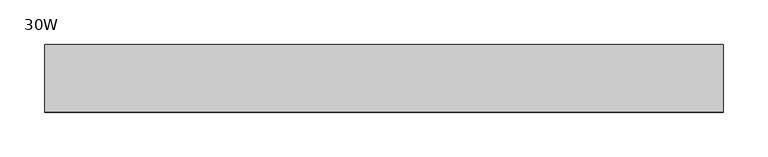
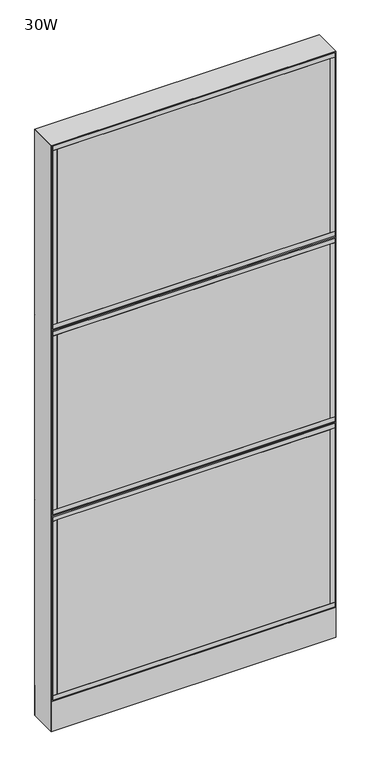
"""IFC4 building model written with IfcOpenShell, lengths in millimetres: furniture geometry, Steelcase - Montage - Frame - 65H - Enhanced Monolithic - Base Cavity : 30W."""

from ifc_helpers import new_model, si_unit, point, frame, frame_2d, origin, origin_with_axes, place, context, project, spatial, polyline, circle_curve, trimmed, segment, composite_curve, outline, extrude, faceted_brep, source, transform, mapped, element, save


def furniture_30w_125e9852(model_context):
    return source(origin(), model_context, "Body", "SolidModel", [
        extrude(outline(polyline([(746.125, 38.1000015), (746.125, 31.7500017), (15.875, 31.7500017), (15.875, 38.1000015), (746.125, 38.1000015)])), frame((0.0, 0.0, 104.775), z_axis=(0.0, 0.0, 1.0), x_axis=(1.0, 0.0, 0.0)), (0.0, 0.0, 1.0), 492.125),
        extrude(outline(polyline([(746.125, -31.7499985), (746.125, -38.1000015), (15.875, -38.1000015), (15.875, -31.7499985), (746.125, -31.7499985)])), frame((0.0, 0.0, 104.775), z_axis=(0.0, 0.0, 1.0), x_axis=(1.0, 0.0, 0.0)), (0.0, 0.0, 1.0), 492.125),
        extrude(outline(polyline([(758.825, -38.1000015), (746.125, -38.1000015), (746.125, 38.1000015), (758.825, 38.1000015), (758.825, -38.1000015)])), frame((0.0, 0.0, 104.775), z_axis=(0.0, 0.0, 1.0), x_axis=(1.0, 0.0, 0.0)), (0.0, 0.0, 1.0), 492.125),
        extrude(outline(polyline([(15.875, -38.1000015), (3.175, -38.1000015), (3.175, 38.1000015), (15.875, 38.1000015), (15.875, -38.1000015)])), frame((0.0, 0.0, 104.775), z_axis=(0.0, 0.0, 1.0), x_axis=(1.0, 0.0, 0.0)), (0.0, 0.0, 1.0), 492.125),
        extrude(outline(polyline([(758.825, -38.1000015), (3.175, -38.1000015), (3.175, 38.1000015), (758.825, 38.1000015), (758.825, -38.1000015)])), frame((0.0, 0.0, 596.9), z_axis=(0.0, 0.0, 1.0), x_axis=(1.0, 0.0, 0.0)), (0.0, 0.0, 1.0), 12.7),
        extrude(outline(polyline([(758.825, -38.1000015), (3.175, -38.1000015), (3.175, 38.1000015), (758.825, 38.1000015), (758.825, -38.1000015)])), frame((0.0, 0.0, 92.075), z_axis=(0.0, 0.0, 1.0), x_axis=(1.0, 0.0, 0.0)), (0.0, 0.0, 1.0), 12.7),
        extrude(outline(polyline([(746.125, 38.1000015), (746.125, 31.7500017), (15.875, 31.7500017), (15.875, 38.1000015), (746.125, 38.1000015)])), frame((0.0, 0.0, 628.65), z_axis=(0.0, 0.0, 1.0), x_axis=(1.0, 0.0, 0.0)), (0.0, 0.0, 1.0), 492.125),
        extrude(outline(polyline([(746.125, -31.7499985), (746.125, -38.1000015), (15.875, -38.1000015), (15.875, -31.7499985), (746.125, -31.7499985)])), frame((0.0, 0.0, 628.65), z_axis=(0.0, 0.0, 1.0), x_axis=(1.0, 0.0, 0.0)), (0.0, 0.0, 1.0), 492.125),
        extrude(outline(polyline([(758.825, -38.1000015), (746.125, -38.1000015), (746.125, 38.1000015), (758.825, 38.1000015), (758.825, -38.1000015)])), frame((0.0, 0.0, 628.65), z_axis=(0.0, 0.0, 1.0), x_axis=(1.0, 0.0, 0.0)), (0.0, 0.0, 1.0), 492.125),
        extrude(outline(polyline([(15.875, -38.1000015), (3.175, -38.1000015), (3.175, 38.1000015), (15.875, 38.1000015), (15.875, -38.1000015)])), frame((0.0, 0.0, 628.65), z_axis=(0.0, 0.0, 1.0), x_axis=(1.0, 0.0, 0.0)), (0.0, 0.0, 1.0), 492.125),
        extrude(outline(polyline([(758.825, -38.1000015), (3.175, -38.1000015), (3.175, 38.1000015), (758.825, 38.1000015), (758.825, -38.1000015)])), frame((0.0, 0.0, 615.95), z_axis=(0.0, 0.0, 1.0), x_axis=(1.0, 0.0, 0.0)), (0.0, 0.0, 1.0), 12.7),
        extrude(outline(polyline([(758.825, -38.1000015), (3.175, -38.1000015), (3.175, 38.1000015), (758.825, 38.1000015), (758.825, -38.1000015)])), frame((0.0, 0.0, 1120.775), z_axis=(0.0, 0.0, 1.0), x_axis=(1.0, 0.0, 0.0)), (0.0, 0.0, 1.0), 12.7),
        extrude(outline(polyline([(746.125, 38.1000015), (746.125, 31.7500017), (15.875, 31.7500017), (15.875, 38.1000015), (746.125, 38.1000015)])), frame((0.0, 0.0, 1152.525), z_axis=(0.0, 0.0, 1.0), x_axis=(1.0, 0.0, 0.0)), (0.0, 0.0, 1.0), 492.125),
        extrude(outline(polyline([(746.125, -31.7499985), (746.125, -38.1000015), (15.875, -38.1000015), (15.875, -31.7499985), (746.125, -31.7499985)])), frame((0.0, 0.0, 1152.525), z_axis=(0.0, 0.0, 1.0), x_axis=(1.0, 0.0, 0.0)), (0.0, 0.0, 1.0), 492.125),
        extrude(outline(polyline([(758.825, -38.1000015), (746.125, -38.1000015), (746.125, 38.1000015), (758.825, 38.1000015), (758.825, -38.1000015)])), frame((0.0, 0.0, 1152.525), z_axis=(0.0, 0.0, 1.0), x_axis=(1.0, 0.0, 0.0)), (0.0, 0.0, 1.0), 492.125),
        extrude(outline(polyline([(15.875, -38.1000015), (3.175, -38.1000015), (3.175, 38.1000015), (15.875, 38.1000015), (15.875, -38.1000015)])), frame((0.0, 0.0, 1152.525), z_axis=(0.0, 0.0, 1.0), x_axis=(1.0, 0.0, 0.0)), (0.0, 0.0, 1.0), 492.125),
        extrude(outline(polyline([(758.825, -38.1000015), (3.175, -38.1000015), (3.175, 38.1000015), (758.825, 38.1000015), (758.825, -38.1000015)])), frame((0.0, 0.0, 1139.825), z_axis=(0.0, 0.0, 1.0), x_axis=(1.0, 0.0, 0.0)), (0.0, 0.0, 1.0), 12.7),
        extrude(outline(polyline([(758.825, -38.1000015), (3.175, -38.1000015), (3.175, 38.1000015), (758.825, 38.1000015), (758.825, -38.1000015)])), frame((0.0, 0.0, 1644.65), z_axis=(0.0, 0.0, 1.0), x_axis=(1.0, 0.0, 0.0)), (0.0, 0.0, 1.0), 12.7),
        faceted_brep([(6.3499917, 31.7526299, 1142.9999997), (6.3499917, 31.7526299, 1130.3000003), (755.6500047, 31.7526299, 1130.3000003), (755.6500047, 31.7526299, 1142.9999997), (-5.4e-06, 38.102627, 1136.6499973), (762.0, 38.1026253, 1136.6500044)], [[[0, 1, 2, 3]], [[4, 1, 0]], [[4, 0, 3, 5]], [[5, 2, 1, 4]], [[3, 2, 5]]]),
        faceted_brep([(-5.4e-06, 38.102627, 612.7750027), (6.3499917, 31.7526299, 619.1249997), (755.6500047, 31.7526299, 619.1249997), (762.0, 38.1026253, 612.7750044), (755.6500047, 31.7526299, 606.4250003), (6.3499917, 31.7526299, 606.4250003)], [[[0, 1, 2, 3]], [[3, 4, 5, 0]], [[1, 5, 4, 2]], [[0, 5, 1]], [[2, 4, 3]]]),
        extrude(outline(polyline([(746.125, -38.1000015), (15.875, -38.1000015), (15.875, -31.7500017), (746.125, -31.7500017), (746.125, -38.1000015)])), frame((0.0, 0.0, 104.775), z_axis=(0.0, 0.0, 1.0), x_axis=(1.0, 0.0, 0.0)), (0.0, 0.0, 1.0), 492.125),
        extrude(outline(polyline([(746.125, 31.7499985), (15.875, 31.7499985), (15.875, 38.1000015), (746.125, 38.1000015), (746.125, 31.7499985)])), frame((0.0, 0.0, 104.775), z_axis=(0.0, 0.0, 1.0), x_axis=(1.0, 0.0, 0.0)), (0.0, 0.0, 1.0), 492.125),
        extrude(outline(polyline([(758.825, 38.1000015), (758.825, -38.1000015), (746.125, -38.1000015), (746.125, 38.1000015), (758.825, 38.1000015)])), frame((0.0, 0.0, 104.775), z_axis=(0.0, 0.0, 1.0), x_axis=(1.0, 0.0, 0.0)), (0.0, 0.0, 1.0), 492.125),
        extrude(outline(polyline([(15.875, 38.1000015), (15.875, -38.1000015), (3.175, -38.1000015), (3.175, 38.1000015), (15.875, 38.1000015)])), frame((0.0, 0.0, 104.775), z_axis=(0.0, 0.0, 1.0), x_axis=(1.0, 0.0, 0.0)), (0.0, 0.0, 1.0), 492.125),
        extrude(outline(polyline([(758.825, 38.1000015), (758.825, -38.1000015), (3.175, -38.1000015), (3.175, 38.1000015), (758.825, 38.1000015)])), frame((0.0, 0.0, 596.9), z_axis=(0.0, 0.0, 1.0), x_axis=(1.0, 0.0, 0.0)), (0.0, 0.0, 1.0), 12.7),
        extrude(outline(polyline([(758.825, 38.1000015), (758.825, -38.1000015), (3.175, -38.1000015), (3.175, 38.1000015), (758.825, 38.1000015)])), frame((0.0, 0.0, 92.075), z_axis=(0.0, 0.0, 1.0), x_axis=(1.0, 0.0, 0.0)), (0.0, 0.0, 1.0), 12.7),
        extrude(outline(polyline([(746.125, -38.1000015), (15.875, -38.1000015), (15.875, -31.7500017), (746.125, -31.7500017), (746.125, -38.1000015)])), frame((0.0, 0.0, 628.65), z_axis=(0.0, 0.0, 1.0), x_axis=(1.0, 0.0, 0.0)), (0.0, 0.0, 1.0), 492.125),
        extrude(outline(polyline([(746.125, 31.7499985), (15.875, 31.7499985), (15.875, 38.1000015), (746.125, 38.1000015), (746.125, 31.7499985)])), frame((0.0, 0.0, 628.65), z_axis=(0.0, 0.0, 1.0), x_axis=(1.0, 0.0, 0.0)), (0.0, 0.0, 1.0), 492.125),
        extrude(outline(polyline([(758.825, 38.1000015), (758.825, -38.1000015), (746.125, -38.1000015), (746.125, 38.1000015), (758.825, 38.1000015)])), frame((0.0, 0.0, 628.65), z_axis=(0.0, 0.0, 1.0), x_axis=(1.0, 0.0, 0.0)), (0.0, 0.0, 1.0), 492.125),
        extrude(outline(polyline([(15.875, 38.1000015), (15.875, -38.1000015), (3.175, -38.1000015), (3.175, 38.1000015), (15.875, 38.1000015)])), frame((0.0, 0.0, 628.65), z_axis=(0.0, 0.0, 1.0), x_axis=(1.0, 0.0, 0.0)), (0.0, 0.0, 1.0), 492.125),
        extrude(outline(polyline([(758.825, 38.1000015), (758.825, -38.1000015), (3.175, -38.1000015), (3.175, 38.1000015), (758.825, 38.1000015)])), frame((0.0, 0.0, 1120.775), z_axis=(0.0, 0.0, 1.0), x_axis=(1.0, 0.0, 0.0)), (0.0, 0.0, 1.0), 12.7),
        extrude(outline(polyline([(758.825, 38.1000015), (758.825, -38.1000015), (3.175, -38.1000015), (3.175, 38.1000015), (758.825, 38.1000015)])), frame((0.0, 0.0, 615.95), z_axis=(0.0, 0.0, 1.0), x_axis=(1.0, 0.0, 0.0)), (0.0, 0.0, 1.0), 12.7),
        extrude(outline(polyline([(746.125, -38.1000015), (15.875, -38.1000015), (15.875, -31.7500017), (746.125, -31.7500017), (746.125, -38.1000015)])), frame((0.0, 0.0, 1152.525), z_axis=(0.0, 0.0, 1.0), x_axis=(1.0, 0.0, 0.0)), (0.0, 0.0, 1.0), 492.125),
        extrude(outline(polyline([(746.125, 31.7499985), (15.875, 31.7499985), (15.875, 38.1000015), (746.125, 38.1000015), (746.125, 31.7499985)])), frame((0.0, 0.0, 1152.525), z_axis=(0.0, 0.0, 1.0), x_axis=(1.0, 0.0, 0.0)), (0.0, 0.0, 1.0), 492.125),
        extrude(outline(polyline([(758.825, 38.1000015), (758.825, -38.1000015), (746.125, -38.1000015), (746.125, 38.1000015), (758.825, 38.1000015)])), frame((0.0, 0.0, 1152.525), z_axis=(0.0, 0.0, 1.0), x_axis=(1.0, 0.0, 0.0)), (0.0, 0.0, 1.0), 492.125),
        extrude(outline(polyline([(15.875, 38.1000015), (15.875, -38.1000015), (3.175, -38.1000015), (3.175, 38.1000015), (15.875, 38.1000015)])), frame((0.0, 0.0, 1152.525), z_axis=(0.0, 0.0, 1.0), x_axis=(1.0, 0.0, 0.0)), (0.0, 0.0, 1.0), 492.125),
        extrude(outline(polyline([(758.825, 38.1000015), (758.825, -38.1000015), (3.175, -38.1000015), (3.175, 38.1000015), (758.825, 38.1000015)])), frame((0.0, 0.0, 1139.825), z_axis=(0.0, 0.0, 1.0), x_axis=(1.0, 0.0, 0.0)), (0.0, 0.0, 1.0), 12.7),
        extrude(outline(polyline([(758.825, 38.1000015), (758.825, -38.1000015), (3.175, -38.1000015), (3.175, 38.1000015), (758.825, 38.1000015)])), frame((0.0, 0.0, 1644.65), z_axis=(0.0, 0.0, 1.0), x_axis=(1.0, 0.0, 0.0)), (0.0, 0.0, 1.0), 12.7),
        faceted_brep([(6.3499917, -31.7526299, 1142.9999997), (755.6500047, -31.7526299, 1142.9999997), (755.6500047, -31.7526299, 1130.3000003), (6.3499917, -31.7526299, 1130.3000003), (-5.4e-06, -38.102627, 1136.6500027), (762.0, -38.1026297, 1136.65)], [[[0, 1, 2, 3]], [[4, 0, 3]], [[4, 5, 1, 0]], [[5, 4, 3, 2]], [[1, 5, 2]]]),
        faceted_brep([(0.0, -38.1026297, 612.775), (762.0, -38.1026297, 612.775), (755.6500047, -31.7526299, 619.1249997), (6.3499917, -31.7526299, 619.1249997), (6.3499917, -31.7526299, 606.4250003), (755.6500047, -31.7526299, 606.4250003)], [[[0, 1, 2, 3]], [[1, 0, 4, 5]], [[3, 2, 5, 4]], [[0, 3, 4]], [[2, 1, 5]]]),
        extrude(outline(polyline([(6.350003, -31.7499985), (755.649997, -31.7499985), (762.0, -38.1000015), (0.0, -38.1000015), (6.350003, -31.7499985)])), frame((0.0, 0.0, 4.064), z_axis=(0.0, 0.0, 1.0), x_axis=(1.0, 0.0, 0.0)), (0.0, 0.0, 1.0), 84.835997),
        extrude(outline(polyline([(6.3500002, 31.7500017), (0.0, 38.1000015), (762.0, 38.1000015), (755.6500002, 31.7500017), (6.3500002, 31.7500017)])), frame((0.0, 0.0, 4.064), z_axis=(0.0, 0.0, 1.0), x_axis=(1.0, 0.0, 0.0)), (0.0, 0.0, 1.0), 84.835997),
        faceted_brep([(762.0, -38.1000015, 1660.525), (0.0, -38.1000015, 1660.525), (6.3500484, -31.749953, 1654.1749516), (755.6499516, -31.749953, 1654.1749516), (6.3500484, 31.749953, 1654.1749516), (755.6499516, 31.749953, 1654.1749516), (0.0, 38.1000015, 1660.525), (762.0, 38.1000015, 1660.525)], [[[0, 1, 2, 3]], [[3, 2, 4, 5]], [[6, 7, 5, 4]], [[1, 0, 7, 6]], [[2, 1, 6, 4]], [[0, 3, 5, 7]]]),
        extrude(outline(composite_curve([segment(trimmed(circle_curve(frame_2d((44.45, 0.0)), 15.24), [point((29.21, 0.0))], [point((59.69, 0.0))], False, "CARTESIAN"), True, "CONTINUOUS"), segment(trimmed(circle_curve(frame_2d((44.45, 0.0)), 15.24), [point((59.69, 0.0))], [point((29.21, 0.0))], False, "CARTESIAN"), True, "CONTINUOUS")], self_intersect=False)), origin_with_axes(), (0.0, 0.0, 1.0), 4.064),
        extrude(outline(composite_curve([segment(trimmed(circle_curve(frame_2d((717.55, 0.0)), 15.24), [point((702.31, 0.0))], [point((732.79, 0.0))], False, "CARTESIAN"), True, "CONTINUOUS"), segment(trimmed(circle_curve(frame_2d((717.55, 0.0)), 15.24), [point((732.79, 0.0))], [point((702.31, 0.0))], False, "CARTESIAN"), True, "CONTINUOUS")], self_intersect=False)), origin_with_axes(), (0.0, 0.0, 1.0), 4.064),
        faceted_brep([(762.0, -38.1000106, 4.064), (762.0, 38.1000015, 4.064), (762.0, 38.1000015, 1660.525), (762.0, -38.1000106, 1660.5249637), (0.0, 38.1000015, 4.064), (0.0, -38.1000015, 4.064), (0.0, -38.1000015, 1660.525), (0.0, 38.1000015, 1660.525), (755.6499879, 31.7500017, 606.425), (6.35, 31.7500017, 606.425), (6.3499998, 31.7500017, 619.125), (755.6499879, 31.7500017, 619.125), (6.35, -31.7499985, 619.125), (755.6499879, -31.7499985, 619.125), (6.350003, -31.7499985, 606.425), (755.6499879, -31.7499985, 606.425), (755.6499879, 31.7500017, 1130.3), (6.35, 31.7500017, 1130.3), (6.3499998, 31.7500017, 1143.0), (755.6499879, 31.7500017, 1143.0), (6.35, -31.7499985, 1143.0), (755.6499879, -31.7499985, 1143.0), (6.350003, -31.7499985, 1130.3), (755.6499879, -31.7499985, 1130.3), (6.35, 31.7500015, 4.064), (6.35, -31.7500015, 4.064), (755.6499879, 31.7499894, 4.064), (755.6499879, -31.7499985, 4.064), (6.35, 31.7500015, 1654.175), (6.35, -31.7500015, 1654.175), (755.6499879, -31.7499985, 1654.1749516), (755.6499879, 31.7499895, 1654.1749516)], [[[0, 1, 2, 3]], [[4, 5, 6, 7]], [[8, 9, 10, 11]], [[11, 10, 12, 13]], [[13, 12, 14, 15]], [[9, 8, 15, 14]], [[16, 17, 18, 19]], [[19, 18, 20, 21]], [[21, 20, 22, 23]], [[17, 16, 23, 22]], [[24, 25, 5, 4]], [[26, 1, 0, 27]], [[24, 4, 7, 28, 18, 17, 10, 9]], [[5, 25, 14, 12, 22, 20, 29, 6]], [[20, 18, 28, 29]], [[25, 24, 9, 14]], [[10, 17, 22, 12]], [[19, 21, 30, 31]], [[26, 27, 15, 8]], [[16, 11, 13, 23]], [[27, 0, 3, 30, 21, 23, 13, 15]], [[1, 26, 8, 11, 16, 19, 31, 2]], [[7, 6, 29, 28]], [[3, 2, 31, 30]]]),
    ])


if __name__ == "__main__":
    model = new_model("IFC4")
    model_context = context("Model", 3, world=origin())
    ifc_project = project(units=[si_unit("LENGTHUNIT", "METRE", prefix="MILLI")], contexts=[model_context])
    site = spatial("IfcSite", under=ifc_project)
    building = spatial("IfcBuilding", under=site)
    placement = place(None, origin())
    furniture_30w_shape = furniture_30w_125e9852(model_context)
    element("IfcFurniture", 1, ObjectType="Steelcase - Montage - Frame - 65H - Enhanced Monolithic - Base Cavity : 30W", at=placement, inside=building, context=model_context, shape_type="MappedRepresentation", body=[
        mapped(furniture_30w_shape, transform((0.0, 0.0, 0.0), x_axis=(1.0, 0.0, 0.0), y_axis=(0.0, 1.0, 0.0), z_axis=(0.0, 0.0, 1.0))),
    ])
    save(model, "model.ifc")
